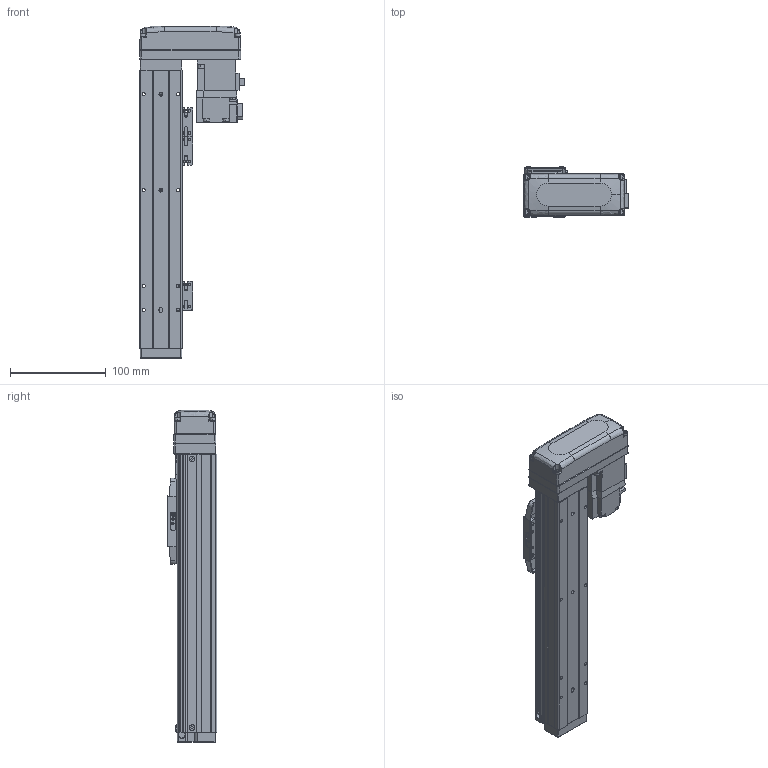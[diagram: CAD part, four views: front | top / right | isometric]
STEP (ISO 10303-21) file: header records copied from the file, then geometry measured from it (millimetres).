
FILE_DESCRIPTION (( 'STEP AP203' ), '1' );
FILE_NAME ('BTH40-150-BL-M05-C4.step', '2021-12-16T00:14:41', ( '微软用户' ), ( '微软中国' ), 'SwSTEP 2.0', 'SolidWorks 2020', '' );
FILE_SCHEMA (( 'CONFIG_CONTROL_DESIGN' ));
Length unit declared in the file: millimetre
Products named in the file (19): BTH40-001-50_BTH40-001-150; BTH50-024; HG-KR13; BTH40-003; GBT 70.1-M3℅6; GBT 70.3-M3℅6; BTH40-006; GBT96.1-2002 3×0.8; BTH40-027-1; BTH-M3X5X6; BTH40-022; BTH50-026; GBT70.1-2000 M3×16; GBT 70.1-M2.5×6; BTH40-150-BL-M05-C4; BTH50-028; BTH40-004; BTH50-023; BTH40-013
Assembly tree (47 placements, depth 2):
  BTH40-150-BL-M05-C4
    BTH40-001-50_BTH40-001-150
    BTH40-003
    BTH40-006
    BTH-M3X5X6  x8
    GBT70.1-2000 M3×16  x4
    BTH50-028  x2
    BTH50-023  x3
    BTH50-024  x3
    GBT 70.1-M3℅6  x6
    GBT96.1-2002 3×0.8  x6
    BTH40-022
    GBT 70.1-M2.5×6  x2
    BTH40-004
    BTH40-013
    HG-KR13
    GBT 70.3-M3℅6  x4
    BTH40-027-1
    BTH50-026
Bounding box: 108.8 x 52 x 346 mm (x, y, z)
Volume: 762103.2 mm3; surface area: 156574.9 mm2
Topology: 49 solids, 49 shells, 1971 faces, 4623 edges, 2842 vertices
Faces by surface type: plane 1052, cylinder 483, cone 270, torus 128, bspline 34, sphere 4
Entity records: 39247 total; most frequent: CARTESIAN_POINT 7522, DIRECTION 6140, ORIENTED_EDGE 5892, EDGE_CURVE 2946, AXIS2_PLACEMENT_3D 2095, LINE 1950, VECTOR 1950, VERTEX_POINT 1829
